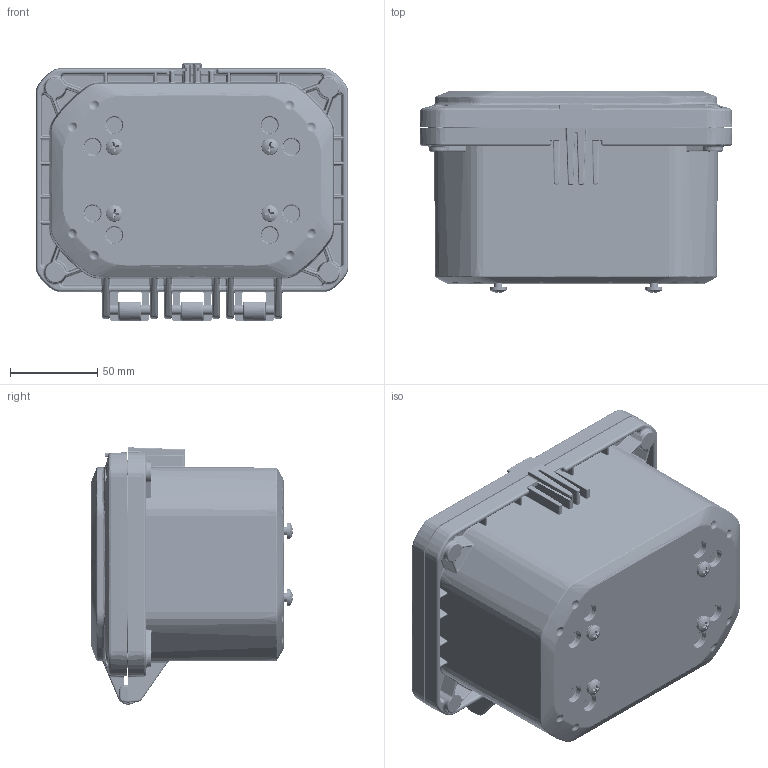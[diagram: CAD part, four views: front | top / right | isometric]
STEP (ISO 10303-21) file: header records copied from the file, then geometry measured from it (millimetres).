
FILE_DESCRIPTION (( 'STEP AP214' ), '1' );
FILE_NAME ('ZH-060404-91.STEP', '2024-10-25T16:31:42', ( '' ), ( '' ), 'SwSTEP 2.0', 'SolidWorks 2024', '' );
FILE_SCHEMA (( 'AUTOMOTIVE_DESIGN' ));
Products named in the file (10): ZH-060404-91; INSERTS-4; SCREWS-049_SCREWS-049; Z_-06043B_ZH-06043B-01; SCREWS-046_SCREWS-046; LABEL-104; Z_-06043BI_ZH-06043BI-01; Z_-06041CG_ZH-06041CG-01; Z_-06041C_ZH-06041C-01; ZH-0604G
Assembly tree (26 placements, depth 3):
  ZH-060404-91
    Z_-06043BI_ZH-06043BI-01
      Z_-06043B_ZH-06043B-01
      INSERTS-4  x12
      LABEL-104
    Z_-06041CG_ZH-06041CG-01
      Z_-06041C_ZH-06041C-01
      ZH-0604G
    SCREWS-046_SCREWS-046  x4
    SCREWS-049_SCREWS-049  x4
Bounding box: 178.82 x 115.3 x 147.19 mm (x, y, z)
Volume: 471012.7 mm3; surface area: 272458.2 mm2
Topology: 24 solids, 24 shells, 5792 faces, 14243 edges, 8480 vertices
Faces by surface type: bspline 1591, plane 1263, cylinder 1194, cone 964, torus 574, sphere 206
Entity records: 206443 total; most frequent: CARTESIAN_POINT 118201, ORIENTED_EDGE 20312, DIRECTION 16478, EDGE_CURVE 10156, AXIS2_PLACEMENT_3D 6972, VERTEX_POINT 5907, EDGE_LOOP 4433, ADVANCED_FACE 4336
